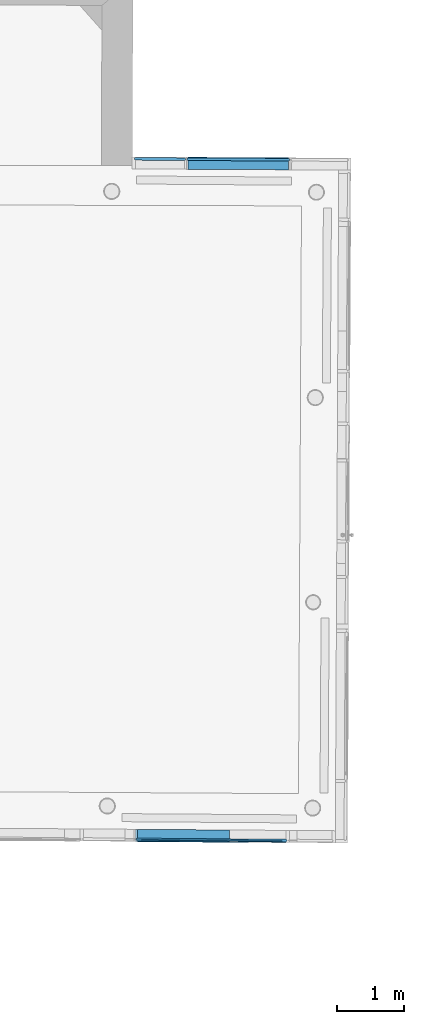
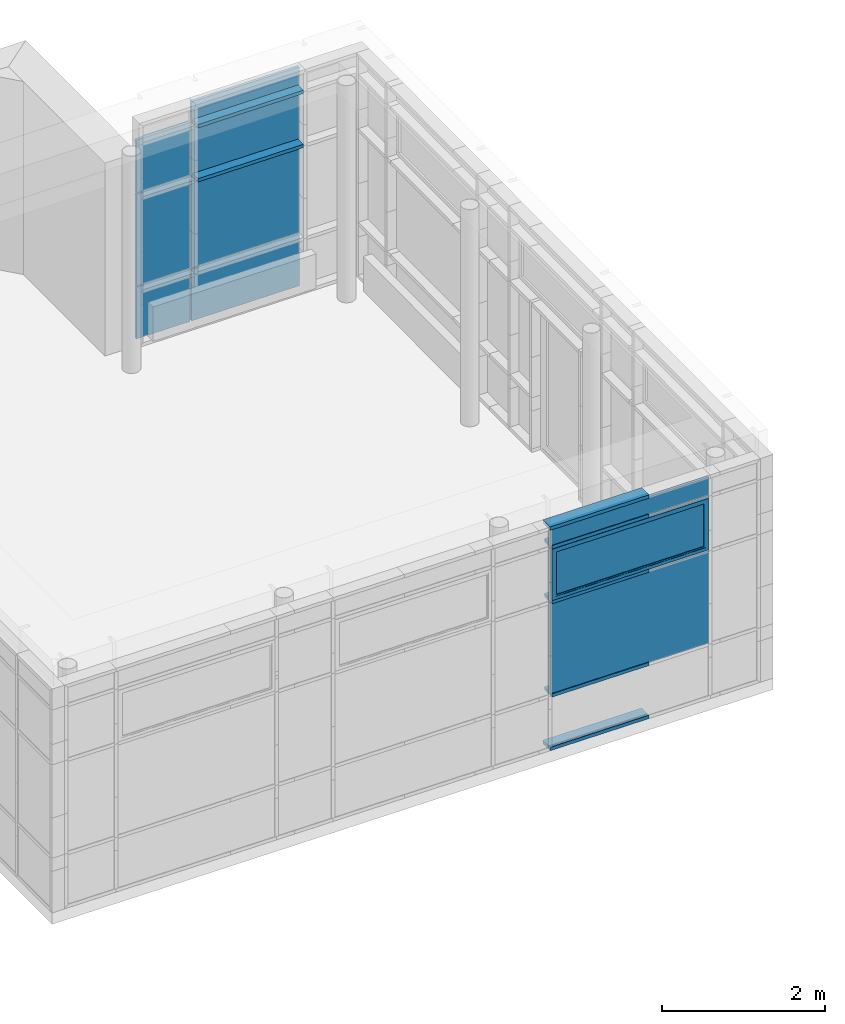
# One storey, part 142 of 196: 18 building element parts, 2 elements without a shape of their own.
"""IFC2X3 building model written with IfcOpenShell, lengths in metres."""

import ifcopenshell
import ifcopenshell.guid

model = None  # the IFC model being written
_history = None  # IfcOwnerHistory: only IFC2X3 demands one
_inside = {}  # id of a spatial element -> (the spatial element, [elements in it])
_under = {}  # id of a project, library or spatial element -> (it, [spatial elements below it])
_declared = {}  # id of a project -> (the project, [libraries it declares])
_typed = {}  # id of a type object -> (the type object, [elements of that type])
_made_of = {}  # id of a material, layer set ... -> (it, [elements and type objects made of it])


def new_model(schema):
    """Start an empty IFC model of exactly this schema.

    Asked for "IFC4X3", IfcOpenShell would pick the latest addendum, in which some entities
    have other attributes; the version numbers below select the first issue.
    IFC2X3 requires an IfcOwnerHistory on every rooted entity: one is made here for all.
    """
    global model, _history
    if schema == "IFC4X3":
        model = ifcopenshell.file(schema_version=(4, 3, 0, 0))
    else:
        model = ifcopenshell.file(schema=schema)
    _inside.clear()
    _under.clear()
    _declared.clear()
    _typed.clear()
    _made_of.clear()
    _history = None
    if model.schema == "IFC2X3":
        org = make("IfcOrganization", Name="unknown")
        user = make(
            "IfcPersonAndOrganization",
            ThePerson=make("IfcPerson", FamilyName="unknown"),
            TheOrganization=org,
        )
        app = make(
            "IfcApplication",
            ApplicationDeveloper=org,
            Version="unknown",
            ApplicationFullName="unknown",
            ApplicationIdentifier="unknown",
        )
        _history = make(
            "IfcOwnerHistory",
            OwningUser=user,
            OwningApplication=app,
            ChangeAction="ADDED",
            CreationDate=0,
        )
    return model


def make(cls, **values):
    """One entity of the class cls with the attributes given. An attribute that is None is left unset."""
    return model.create_entity(
        cls, **{name: value for name, value in values.items() if value is not None}
    )


def entity(cls, *values):
    """Any entity or typed value of the class cls, its attributes in the order of the schema. None: left unset."""
    e = model.create_entity(cls)
    for i, value in enumerate(values):
        if value is not None:
            e[i] = value
    return e


def rooted(cls, **values):
    """An entity with a GlobalId (a new one), such as an element, a storey or a relation."""
    return make(cls, GlobalId=ifcopenshell.guid.new(), OwnerHistory=_history, **values)


def si_unit(unit_type, name, prefix=None):
    """IfcSIUnit, for example si_unit("LENGTHUNIT", "METRE", prefix="MILLI")."""
    return make("IfcSIUnit", UnitType=unit_type, Prefix=prefix, Name=name)


def converted_unit(unit_type, name, factor, base, dimensions=None, offset=None):
    """IfcConversionBasedUnit, such as the inch: factor (a typed value) times the base unit."""
    return make(
        "IfcConversionBasedUnit"
        if offset is None
        else "IfcConversionBasedUnitWithOffset",
        ConversionOffset=offset,
        Dimensions=None
        if dimensions is None
        else entity("IfcDimensionalExponents", *dimensions),
        UnitType=unit_type,
        Name=name,
        ConversionFactor=make(
            "IfcMeasureWithUnit", ValueComponent=factor, UnitComponent=base
        ),
    )


def derived_unit(unit_type, elements):
    """IfcDerivedUnit: a product of units, each with its exponent."""
    return make(
        "IfcDerivedUnit",
        Elements=[
            make("IfcDerivedUnitElement", Unit=unit, Exponent=power)
            for unit, power in elements
        ],
        UnitType=unit_type,
    )


def money_unit(currency):
    """IfcMonetaryUnit."""
    return make("IfcMonetaryUnit", Currency=currency)


def assignment(units):
    """IfcUnitAssignment: the units of a project."""
    return None if units is None else make("IfcUnitAssignment", Units=units)


def point(xyz):
    """IfcCartesianPoint."""
    return None if xyz is None else make("IfcCartesianPoint", Coordinates=xyz)


def direction(xyz):
    """IfcDirection."""
    return None if xyz is None else make("IfcDirection", DirectionRatios=xyz)


def frame(location, z_axis=None, x_axis=None):
    """IfcAxis2Placement3D, a coordinate frame: its origin and axes. An axis left out is left unset."""
    return make(
        "IfcAxis2Placement3D",
        Location=point(location),
        Axis=direction(z_axis),
        RefDirection=direction(x_axis),
    )


def origin_with_axes():
    """The frame at (0, 0, 0) with the z axis (0, 0, 1) and the x axis (1, 0, 0) written out."""
    return frame((0.0, 0.0, 0.0), z_axis=(0.0, 0.0, 1.0), x_axis=(1.0, 0.0, 0.0))


def place(relative_to, where):
    """IfcLocalPlacement: puts the frame where relative to a parent placement (None: the world)."""
    return make(
        "IfcLocalPlacement", PlacementRelTo=relative_to, RelativePlacement=where
    )


def context(
    kind, dimensions, precision=None, world=None, true_north=None, identifier=None
):
    """IfcGeometricRepresentationContext, for example the 3D "Model" context."""
    return make(
        "IfcGeometricRepresentationContext",
        ContextIdentifier=identifier,
        ContextType=kind,
        CoordinateSpaceDimension=dimensions,
        Precision=precision,
        WorldCoordinateSystem=world,
        TrueNorth=true_north,
    )


def subcontext(parent, identifier, kind, view, scale=None):
    """IfcGeometricRepresentationSubContext, for example "Body" below "Model"."""
    return make(
        "IfcGeometricRepresentationSubContext",
        ContextIdentifier=identifier,
        ContextType=kind,
        ParentContext=parent,
        TargetScale=scale,
        TargetView=view,
    )


def project(units=None, contexts=None):
    """IfcProject with its units and contexts."""
    return rooted(
        "IfcProject",
        Name="project",
        RepresentationContexts=contexts,
        UnitsInContext=assignment(units),
    )


def spatial(cls, under=None, at=None, **own):
    """A site, building, storey or space (cls), placed at a placement, below another one or the project."""
    s = rooted(cls, ObjectPlacement=at, **own)
    if under is not None:
        _under.setdefault(under.id(), (under, []))[1].append(s)
    return s


def faces_of(points, faces, orient=None, outer=None):
    """IfcFace entities. A face is a list of loops; a loop is a list of indices into points, from 0.

    orient and outer hold one flag for each loop. By default every Orientation is true, the
    first loop of a face is its IfcFaceOuterBound and the others are IfcFaceBound.
    """
    made = []
    for i, loops in enumerate(faces):
        bounds = []
        for j, loop in enumerate(loops):
            is_outer = j == 0 if outer is None else outer[i][j]
            bounds.append(
                make(
                    "IfcFaceOuterBound" if is_outer else "IfcFaceBound",
                    Bound=make("IfcPolyLoop", Polygon=[points[k] for k in loop]),
                    Orientation=True if orient is None else orient[i][j],
                )
            )
        made.append(make("IfcFace", Bounds=bounds))
    return made


def faceted_brep(points, faces, orient=None, outer=None, voids=None):
    """IfcFacetedBrep: a solid bounded by flat faces; with voids (closed shells), ...WithVoids."""
    shared = [point(p) for p in points]
    hull = make("IfcClosedShell", CfsFaces=faces_of(shared, faces, orient, outer))
    if voids is None:
        return make("IfcFacetedBrep", Outer=hull)
    return make(
        "IfcFacetedBrepWithVoids",
        Outer=hull,
        Voids=[
            make(cls, CfsFaces=faces_of(shared, fs, o, b)) for cls, fs, o, b in voids
        ],
    )


def shape(context_of_items, identifier, shape_type, items):
    """IfcShapeRepresentation: the items that make up one representation, for example the "Body"."""
    return make(
        "IfcShapeRepresentation",
        ContextOfItems=context_of_items,
        RepresentationIdentifier=identifier,
        RepresentationType=shape_type,
        Items=items,
    )


def material(Name=None, Category=None):
    """IfcMaterial."""
    return make("IfcMaterial", Name=Name, Category=Category)


def made_of(thing, what):
    """Note that an element or type object is made of a material, layer set ...; save() writes the relation."""
    if what is not None:
        _made_of.setdefault(what.id(), (what, []))[1].append(thing)
    return thing


def type_object(cls, material=None, **own):
    """A type object (cls), such as IfcWallType, which elements share."""
    return made_of(rooted(cls, **own), material)


def element(
    cls,
    number,
    at=None,
    inside=None,
    cuts=None,
    type_object=None,
    material=None,
    context=None,
    identifier="Body",
    shape_type=None,
    held_by="IfcProductDefinitionShape",
    body=None,
    shapes=None,
    **own,
):
    """One element of the class cls, such as IfcWall. Its Tag is "e" and its number.

    at: its placement. inside: the storey or other place that contains it. cuts: it is an
    opening in that element (IfcRelVoidsElement). A single representation is given by context,
    identifier, shape_type and body (its items); several are given by shapes. held_by: the class
    of the entity that holds the representations. save() writes the other relations.
    """
    e = rooted(cls, Tag="e%d" % number, ObjectPlacement=at, **own)
    if body is not None:
        shapes = [shape(context, identifier, shape_type, body)]
    if shapes is not None:
        e.Representation = make(held_by, Representations=shapes)
    if inside is not None:
        _inside.setdefault(inside.id(), (inside, []))[1].append(e)
    if cuts is not None:
        rooted(
            "IfcRelVoidsElement", RelatingBuildingElement=cuts, RelatedOpeningElement=e
        )
    if type_object is not None:
        _typed.setdefault(type_object.id(), (type_object, []))[1].append(e)
    return made_of(e, material)


def aggregate(whole, parts):
    """IfcRelAggregates: a whole, such as a stair, and the parts it consists of."""
    return rooted("IfcRelAggregates", RelatingObject=whole, RelatedObjects=parts)


def save(model, path):
    """Write the relations noted so far, then the file.

    IfcRelAggregates (storeys below a building ...), IfcRelContainedInSpatialStructure (elements
    in a storey), IfcRelDefinesByType, IfcRelAssociatesMaterial and IfcRelDeclares: one each for
    every whole, place, type object, material and project.
    """
    for whole, parts in _under.values():
        aggregate(whole, parts)
    for where, things in _inside.values():
        rooted(
            "IfcRelContainedInSpatialStructure",
            RelatedElements=things,
            RelatingStructure=where,
        )
    for kind, things in _typed.values():
        rooted("IfcRelDefinesByType", RelatedObjects=things, RelatingType=kind)
    for what, things in _made_of.values():
        rooted("IfcRelAssociatesMaterial", RelatedObjects=things, RelatingMaterial=what)
    for by, libraries in _declared.values():
        rooted("IfcRelDeclares", RelatingContext=by, RelatedDefinitions=libraries)
    model.write(path)


model = new_model("IFC2X3")

# Units and contexts
model_context = context("Model", 3, precision=1e-05, world=origin_with_axes(), true_north=direction((0.0, 1.0)))
body_context = subcontext(model_context, "Body", "Model", "MODEL_VIEW")
ifc_project = project(units=[si_unit("LENGTHUNIT", "METRE"), si_unit("AREAUNIT", "SQUARE_METRE"), si_unit("VOLUMEUNIT", "CUBIC_METRE"), converted_unit("PLANEANGLEUNIT", "DEGREE", entity("IfcPlaneAngleMeasure", 0.0174532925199), si_unit("PLANEANGLEUNIT", "RADIAN"), dimensions=[0, 0, 0, 0, 0, 0, 0]), money_unit("EUR"), converted_unit("TIMEUNIT", "Year", entity("IfcTimeMeasure", 31556926.0), si_unit("TIMEUNIT", "SECOND"), dimensions=[0, 0, 1, 0, 0, 0, 0]), si_unit("MASSUNIT", "GRAM", prefix="KILO"), si_unit("THERMODYNAMICTEMPERATUREUNIT", "DEGREE_CELSIUS"), si_unit("LUMINOUSINTENSITYUNIT", "LUMEN"), si_unit("ENERGYUNIT", "JOULE", prefix="MEGA"), derived_unit("THERMALCONDUCTANCEUNIT", [(si_unit("POWERUNIT", "WATT"), 1), (si_unit("LENGTHUNIT", "METRE"), -1), (si_unit("THERMODYNAMICTEMPERATUREUNIT", "KELVIN"), -1)]), derived_unit("SPECIFICHEATCAPACITYUNIT", [(si_unit("ENERGYUNIT", "JOULE"), 1), (si_unit("MASSUNIT", "GRAM", prefix="KILO"), -1), (si_unit("THERMODYNAMICTEMPERATUREUNIT", "KELVIN"), -1)]), derived_unit("MASSDENSITYUNIT", [(si_unit("MASSUNIT", "GRAM", prefix="KILO"), 1), (si_unit("VOLUMEUNIT", "CUBIC_METRE"), -1)])], contexts=[model_context])

# Site, building, storey
site_placement = place(None, origin_with_axes())
site = spatial("IfcSite", under=ifc_project, at=site_placement, Name="Gelände", CompositionType="ELEMENT")
building_placement = place(site_placement, origin_with_axes())
building = spatial("IfcBuilding", under=site, at=building_placement, Name="Gebäude", CompositionType="ELEMENT")
storey_placement = place(building_placement, frame((0.0, 0.0, -3.0), z_axis=(0.0, 0.0, 1.0), x_axis=(1.0, 0.0, 0.0)))
storey = spatial("IfcBuildingStorey", under=building, at=storey_placement, Name="KELLERGESCHOSS", CompositionType="ELEMENT", Elevation=-3.0)

# Proxy, building element parts
building_element_proxy_type = type_object("IfcBuildingElementProxyType", Name="Fassadentyp", PredefinedType="NOTDEFINED")
proxy_1_placement = place(storey_placement, frame((2.54090824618, 35.7894672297, 0.610000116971), z_axis=(0.0, 0.0, 1.0), x_axis=(1.0, 0.0, 0.0)))
proxy_1 = element("IfcBuildingElementProxy", 1, at=proxy_1_placement, inside=storey, type_object=building_element_proxy_type, Name="Fassade-002")
ifc_material_1 = material(Name="53_Metall, Aluminium")
building_element_part_1_placement = place(proxy_1_placement, origin_with_axes())
building_element_part_1 = element("IfcBuildingElementPart", 2, at=building_element_part_1_placement, material=ifc_material_1, Name="53_Metall, Aluminium", context=body_context, shape_type="Brep", body=[
    faceted_brep([(3.51924131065, -0.0555016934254, 2.24148767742), (5.7296679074, -0.0715187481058, 2.24148767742), (5.72963167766, -0.0765186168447, 2.24148767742), (3.51920508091, -0.0605015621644, 2.24148767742), (3.5642401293, -0.0558277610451, 2.28648767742), (5.68466908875, -0.0711926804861, 2.28648767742), (5.68463285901, -0.076192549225, 2.28648767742), (3.56420389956, -0.060827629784, 2.28648767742)], [[[0, 1, 2, 3]], [[0, 4, 5, 1]], [[1, 5, 6, 2]], [[3, 2, 6, 7]], [[4, 0, 3, 7]], [[5, 4, 7, 6]]]),
    faceted_brep([(5.7296679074, -0.0715187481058, 2.24148767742), (5.7296679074, -0.0715187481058, 3.01149577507), (5.72963167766, -0.0765186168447, 3.01149577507), (5.72963167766, -0.0765186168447, 2.24148767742), (5.68466908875, -0.0711926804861, 2.28648767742), (5.68466908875, -0.0711926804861, 2.96649577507), (5.68463285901, -0.076192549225, 2.96649577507), (5.68463285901, -0.076192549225, 2.28648767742)], [[[0, 1, 2, 3]], [[0, 4, 5, 1]], [[1, 5, 6, 2]], [[3, 2, 6, 7]], [[4, 0, 3, 7]], [[5, 4, 7, 6]]]),
    faceted_brep([(3.51924131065, -0.0555016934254, 3.01149577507), (3.5642401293, -0.0558277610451, 2.96649577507), (3.56420389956, -0.060827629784, 2.96649577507), (3.51920508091, -0.0605015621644, 3.01149577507), (5.7296679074, -0.0715187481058, 3.01149577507), (5.68466908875, -0.0711926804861, 2.96649577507), (5.68463285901, -0.076192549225, 2.96649577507), (5.72963167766, -0.0765186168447, 3.01149577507)], [[[0, 1, 2, 3]], [[0, 4, 5, 1]], [[1, 5, 6, 2]], [[3, 2, 6, 7]], [[4, 0, 3, 7]], [[5, 4, 7, 6]]]),
    faceted_brep([(3.51924131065, -0.0555016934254, 2.24148767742), (3.5642401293, -0.0558277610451, 2.28648767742), (3.56420389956, -0.060827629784, 2.28648767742), (3.51920508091, -0.0605015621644, 2.24148767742), (3.51924131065, -0.0555016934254, 3.01149577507), (3.5642401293, -0.0558277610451, 2.96649577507), (3.56420389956, -0.060827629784, 2.96649577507), (3.51920508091, -0.0605015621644, 3.01149577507)], [[[0, 1, 2, 3]], [[0, 4, 5, 1]], [[1, 5, 6, 2]], [[3, 2, 6, 7]], [[4, 0, 3, 7]], [[5, 4, 7, 6]]]),
    faceted_brep([(3.519603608, -0.00550300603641, 2.24148767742), (5.73003020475, -0.0215200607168, 2.24148767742), (5.7296679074, -0.0715187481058, 2.24148767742), (3.51924131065, -0.0555016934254, 2.24148767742), (3.53960308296, -0.00564792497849, 2.26148767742), (5.7100307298, -0.0213751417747, 2.26148767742), (5.70966843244, -0.0713738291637, 2.26148767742), (3.5392407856, -0.0556466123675, 2.26148767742)], [[[0, 1, 2, 3]], [[0, 4, 5, 1]], [[1, 5, 6, 2]], [[3, 2, 6, 7]], [[4, 0, 3, 7]], [[5, 4, 7, 6]]]),
    faceted_brep([(5.73003020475, -0.0215200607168, 2.24148767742), (5.73003020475, -0.0215200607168, 3.01149577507), (5.7296679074, -0.0715187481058, 3.01149577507), (5.7296679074, -0.0715187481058, 2.24148767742), (5.7100307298, -0.0213751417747, 2.26148767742), (5.7100307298, -0.0213751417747, 2.99149577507), (5.70966843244, -0.0713738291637, 2.99149577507), (5.70966843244, -0.0713738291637, 2.26148767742)], [[[0, 1, 2, 3]], [[0, 4, 5, 1]], [[1, 5, 6, 2]], [[3, 2, 6, 7]], [[4, 0, 3, 7]], [[5, 4, 7, 6]]]),
    faceted_brep([(3.519603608, -0.00550300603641, 3.01149577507), (3.53960308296, -0.00564792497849, 2.99149577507), (3.5392407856, -0.0556466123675, 2.99149577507), (3.51924131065, -0.0555016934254, 3.01149577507), (5.73003020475, -0.0215200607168, 3.01149577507), (5.7100307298, -0.0213751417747, 2.99149577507), (5.70966843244, -0.0713738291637, 2.99149577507), (5.7296679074, -0.0715187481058, 3.01149577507)], [[[0, 1, 2, 3]], [[0, 4, 5, 1]], [[1, 5, 6, 2]], [[3, 2, 6, 7]], [[4, 0, 3, 7]], [[5, 4, 7, 6]]]),
    faceted_brep([(3.519603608, -0.00550300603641, 2.24148767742), (3.53960308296, -0.00564792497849, 2.26148767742), (3.5392407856, -0.0556466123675, 2.26148767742), (3.51924131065, -0.0555016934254, 2.24148767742), (3.519603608, -0.00550300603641, 3.01149577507), (3.53960308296, -0.00564792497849, 2.99149577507), (3.5392407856, -0.0556466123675, 2.99149577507), (3.51924131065, -0.0555016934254, 3.01149577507)], [[[0, 1, 2, 3]], [[0, 4, 5, 1]], [[1, 5, 6, 2]], [[3, 2, 6, 7]], [[4, 0, 3, 7]], [[5, 4, 7, 6]]]),
    faceted_brep([(3.50460399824, -0.00539431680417, 2.22648767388), (5.74502981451, -0.021628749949, 2.22648767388), (5.74473997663, -0.0616276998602, 2.22648767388), (3.50431416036, -0.0453932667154, 2.22648767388), (3.519603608, -0.00550300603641, 2.24148767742), (5.73003020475, -0.0215200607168, 2.24148767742), (5.72974036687, -0.061519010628, 2.24148767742), (3.51931377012, -0.0455019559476, 2.24148767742)], [[[0, 1, 2, 3]], [[0, 4, 5, 1]], [[1, 5, 6, 2]], [[3, 2, 6, 7]], [[4, 0, 3, 7]], [[5, 4, 7, 6]]]),
    faceted_brep([(5.74502981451, -0.021628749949, 2.22648767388), (5.74502981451, -0.021628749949, 3.02649577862), (5.74473997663, -0.0616276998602, 3.02649577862), (5.74473997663, -0.0616276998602, 2.22648767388), (5.73003020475, -0.0215200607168, 2.24148767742), (5.73003020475, -0.0215200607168, 3.01149577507), (5.72974036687, -0.061519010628, 3.01149577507), (5.72974036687, -0.061519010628, 2.24148767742)], [[[0, 1, 2, 3]], [[0, 4, 5, 1]], [[1, 5, 6, 2]], [[3, 2, 6, 7]], [[4, 0, 3, 7]], [[5, 4, 7, 6]]]),
    faceted_brep([(5.74502981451, -0.021628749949, 3.02649577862), (3.50460399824, -0.00539431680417, 3.02649577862), (3.50431416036, -0.0453932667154, 3.02649577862), (5.74473997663, -0.0616276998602, 3.02649577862), (5.73003020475, -0.0215200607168, 3.01149577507), (3.519603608, -0.00550300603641, 3.01149577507), (3.51931377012, -0.0455019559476, 3.01149577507), (5.72974036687, -0.061519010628, 3.01149577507)], [[[0, 1, 2, 3]], [[0, 4, 5, 1]], [[1, 5, 6, 2]], [[3, 2, 6, 7]], [[4, 0, 3, 7]], [[5, 4, 7, 6]]]),
    faceted_brep([(3.50460399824, -0.00539431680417, 3.02649577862), (3.50460399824, -0.00539431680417, 2.22648767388), (3.50431416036, -0.0453932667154, 2.22648767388), (3.50431416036, -0.0453932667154, 3.02649577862), (3.519603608, -0.00550300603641, 3.01149577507), (3.519603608, -0.00550300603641, 2.24148767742), (3.51931377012, -0.0455019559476, 2.24148767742), (3.51931377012, -0.0455019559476, 3.01149577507)], [[[0, 1, 2, 3]], [[0, 4, 5, 1]], [[1, 5, 6, 2]], [[3, 2, 6, 7]], [[4, 0, 3, 7]], [[5, 4, 7, 6]]]),
    faceted_brep([(3.58423960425, -0.0559726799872, 2.30648767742), (3.58463813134, -0.000974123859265, 2.30648767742), (3.58463813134, -0.000974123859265, 2.94649577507), (3.58423960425, -0.0559726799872, 2.94649577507), (3.5392407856, -0.0556466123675, 2.26148767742), (3.53963931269, -0.000648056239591, 2.26148767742), (3.53963931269, -0.000648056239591, 2.99149577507), (3.5392407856, -0.0556466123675, 2.99149577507)], [[[0, 1, 2, 3]], [[4, 5, 1, 0]], [[1, 5, 6, 2]], [[3, 2, 6, 7]], [[0, 3, 7, 4]], [[7, 6, 5, 4]]]),
    faceted_brep([(5.70966843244, -0.0713738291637, 2.26148767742), (5.71006695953, -0.0163752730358, 2.26148767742), (5.71006695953, -0.0163752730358, 2.99149577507), (5.70966843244, -0.0713738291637, 2.99149577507), (5.66466961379, -0.071047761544, 2.30648767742), (5.66506814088, -0.0160492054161, 2.30648767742), (5.66506814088, -0.0160492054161, 2.94649577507), (5.66466961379, -0.071047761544, 2.94649577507)], [[[0, 1, 2, 3]], [[4, 5, 1, 0]], [[1, 5, 6, 2]], [[3, 2, 6, 7]], [[0, 3, 7, 4]], [[7, 6, 5, 4]]]),
    faceted_brep([(5.70966843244, -0.0713738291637, 2.26148767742), (5.71006695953, -0.0163752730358, 2.26148767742), (5.66506814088, -0.0160492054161, 2.30648767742), (5.66466961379, -0.071047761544, 2.30648767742), (3.5392407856, -0.0556466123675, 2.26148767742), (3.53963931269, -0.000648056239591, 2.26148767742), (3.58463813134, -0.000974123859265, 2.30648767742), (3.58423960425, -0.0559726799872, 2.30648767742)], [[[0, 1, 2, 3]], [[4, 5, 1, 0]], [[1, 5, 6, 2]], [[3, 2, 6, 7]], [[0, 3, 7, 4]], [[7, 6, 5, 4]]]),
    faceted_brep([(3.5392407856, -0.0556466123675, 2.99149577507), (3.53963931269, -0.000648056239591, 2.99149577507), (3.58463813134, -0.000974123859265, 2.94649577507), (3.58423960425, -0.0559726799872, 2.94649577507), (5.70966843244, -0.0713738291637, 2.99149577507), (5.71006695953, -0.0163752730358, 2.99149577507), (5.66506814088, -0.0160492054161, 2.94649577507), (5.66466961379, -0.071047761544, 2.94649577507)], [[[0, 1, 2, 3]], [[4, 5, 1, 0]], [[1, 5, 6, 2]], [[3, 2, 6, 7]], [[0, 3, 7, 4]], [[7, 6, 5, 4]]]),
])
ifc_material_2 = material(Name="45_Glas, Normalglas")
building_element_part_2_placement = place(proxy_1_placement, origin_with_axes())
building_element_part_2 = element("IfcBuildingElementPart", 3, at=building_element_part_2_placement, material=ifc_material_2, Name="45_Glas, Normalglas", context=body_context, shape_type="Brep", body=[
    faceted_brep([(3.58431206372, -0.0459729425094, 2.30648767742), (3.58442799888, -0.0299733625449, 2.30648767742), (5.66485800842, -0.0450484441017, 2.30648767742), (5.66474207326, -0.0610480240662, 2.30648767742), (3.58431206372, -0.0459729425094, 2.94649577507), (3.58442799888, -0.0299733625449, 2.94649577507), (5.66485800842, -0.0450484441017, 2.94649577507), (5.66474207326, -0.0610480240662, 2.94649577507)], [[[0, 1, 2, 3]], [[4, 5, 1, 0]], [[1, 5, 6, 2]], [[3, 2, 6, 7]], [[0, 3, 7, 4]], [[7, 6, 5, 4]]]),
])
building_element_part_3_placement = place(proxy_1_placement, origin_with_axes())
building_element_part_3 = element("IfcBuildingElementPart", 4, at=building_element_part_3_placement, material=ifc_material_2, Name="45_Glas, Normalglas", context=body_context, shape_type="Brep", body=[
    faceted_brep([(5.7450298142, -0.0216287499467, 2.20648767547), (4.88929718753, -0.0154279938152, 2.20648767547), (4.88900734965, -0.0554269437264, 2.20648767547), (5.74473997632, -0.061627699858, 2.20648767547), (5.7450298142, -0.0216287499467, 1.41999987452), (5.7450298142, -0.0216287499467, 0.828463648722), (4.88929718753, -0.0154279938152, 0.828463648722), (3.50460399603, -0.00539431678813, 0.828463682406), (3.50460399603, -0.00539431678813, 1.41999987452), (3.50460399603, -0.00539431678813, 2.20648767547), (3.50431415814, -0.0453932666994, 2.20648767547), (3.50431415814, -0.0453932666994, 1.41999987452), (3.50431415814, -0.0453932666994, 0.828463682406), (4.88900734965, -0.0554269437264, 0.828463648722), (5.74473997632, -0.061627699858, 0.828463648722), (5.74473997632, -0.061627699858, 1.41999987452)], [[[0, 1, 2, 3]], [[0, 4, 5, 6, 7, 8, 9, 1]], [[1, 9, 10, 2]], [[3, 2, 10, 11, 12, 13, 14, 15]], [[4, 0, 3, 15]], [[5, 4, 15, 14]], [[6, 5, 14, 13]], [[7, 6, 13, 12]], [[8, 7, 12, 11]], [[9, 8, 11, 10]]]),
])
building_element_part_4_placement = place(proxy_1_placement, origin_with_axes())
building_element_part_4 = element("IfcBuildingElementPart", 5, at=building_element_part_4_placement, material=ifc_material_2, Name="45_Glas, Normalglas", context=body_context, shape_type="Brep", body=[
    faceted_brep([(5.74502981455, -0.0216287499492, 3.31499992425), (4.88929719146, -0.0154279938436, 3.31499992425), (4.88900735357, -0.0554269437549, 3.31499992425), (5.74473997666, -0.0616276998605, 3.31499992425), (5.74502981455, -0.0216287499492, 3.04649576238), (4.88929719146, -0.0154279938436, 3.04649576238), (3.50460400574, -0.00539431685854, 3.04649576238), (3.50460400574, -0.00539431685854, 3.31499992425), (3.50431416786, -0.0453932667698, 3.31499992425), (3.50431416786, -0.0453932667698, 3.04649576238), (4.88900735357, -0.0554269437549, 3.04649576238), (5.74473997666, -0.0616276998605, 3.04649576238)], [[[0, 1, 2, 3]], [[0, 4, 5, 6, 7, 1]], [[1, 7, 8, 2]], [[3, 2, 8, 9, 10, 11]], [[4, 0, 3, 11]], [[5, 4, 11, 10]], [[6, 5, 10, 9]], [[7, 6, 9, 8]]]),
])
building_element_part_5_placement = place(proxy_1_placement, origin_with_axes())
building_element_part_5 = element("IfcBuildingElementPart", 6, at=building_element_part_5_placement, material=ifc_material_1, Name="53_Metall, Aluminium", context=body_context, shape_type="Brep", body=[
    faceted_brep([(4.88922474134, -0.0254277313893, 3.02649576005), (4.88922474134, -0.0254277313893, 3.01149576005), (4.89023917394, 0.1145685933, 3.01149576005), (4.89023917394, 0.1145685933, 3.06149576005), (4.88922474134, -0.0254277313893, 3.06149576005), (4.88922474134, -0.0254277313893, 3.04649576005), (4.8890798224, -0.0454272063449, 3.04649576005), (4.8890798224, -0.0454272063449, 3.06149576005), (4.88893490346, -0.0654266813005, 3.06149576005), (4.88893490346, -0.0654266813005, 3.01149576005), (4.8890798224, -0.0454272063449, 3.01149576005), (4.8890798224, -0.0454272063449, 3.02649576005), (3.51953115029, -0.015502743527, 3.02649576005), (3.51953115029, -0.015502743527, 3.01149576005), (3.52054558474, 0.124493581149, 3.01149576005), (3.52054558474, 0.124493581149, 3.06149576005), (3.51953115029, -0.015502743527, 3.06149576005), (3.51953115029, -0.015502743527, 3.04649576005), (3.51938623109, -0.0355022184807, 3.04649576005), (3.51938623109, -0.0355022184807, 3.06149576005), (3.51924131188, -0.0555016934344, 3.06149576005), (3.51924131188, -0.0555016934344, 3.01149576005), (3.51938623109, -0.0355022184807, 3.01149576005), (3.51938623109, -0.0355022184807, 3.02649576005)], [[[0, 1, 2, 3, 4, 5, 6, 7, 8, 9, 10, 11]], [[1, 0, 12, 13]], [[1, 13, 14, 2]], [[2, 14, 15, 3]], [[4, 3, 15, 16]], [[4, 16, 17, 5]], [[5, 17, 18, 6]], [[7, 6, 18, 19]], [[19, 20, 8, 7]], [[8, 20, 21, 9]], [[22, 10, 9, 21]], [[11, 10, 22, 23]], [[0, 11, 23, 12]], [[23, 22, 21, 20, 19, 18, 17, 16, 15, 14, 13, 12]]]),
])
building_element_part_6_placement = place(proxy_1_placement, origin_with_axes())
building_element_part_6 = element("IfcBuildingElementPart", 7, at=building_element_part_6_placement, material=ifc_material_1, Name="53_Metall, Aluminium", context=body_context, shape_type="Brep", body=[
    faceted_brep([(4.88922473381, -0.0254277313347, 2.20648768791), (4.88922473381, -0.0254277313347, 2.19148768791), (4.8902391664, 0.114568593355, 2.19148768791), (4.8902391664, 0.114568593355, 2.24148768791), (4.88922473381, -0.0254277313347, 2.24148768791), (4.88922473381, -0.0254277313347, 2.22648768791), (4.88907981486, -0.0454272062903, 2.22648768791), (4.88907981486, -0.0454272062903, 2.24148768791), (4.88893489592, -0.0654266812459, 2.24148768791), (4.88893489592, -0.0654266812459, 2.19148768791), (4.88907981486, -0.0454272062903, 2.19148768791), (4.88907981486, -0.0454272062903, 2.20648768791), (3.51953114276, -0.0155027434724, 2.20648768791), (3.51953114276, -0.0155027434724, 2.19148768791), (3.5205455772, 0.124493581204, 2.19148768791), (3.5205455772, 0.124493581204, 2.24148768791), (3.51953114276, -0.0155027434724, 2.24148768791), (3.51953114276, -0.0155027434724, 2.22648768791), (3.51938622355, -0.0355022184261, 2.22648768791), (3.51938622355, -0.0355022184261, 2.24148768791), (3.51924130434, -0.0555016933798, 2.24148768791), (3.51924130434, -0.0555016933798, 2.19148768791), (3.51938622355, -0.0355022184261, 2.19148768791), (3.51938622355, -0.0355022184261, 2.20648768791)], [[[0, 1, 2, 3, 4, 5, 6, 7, 8, 9, 10, 11]], [[1, 0, 12, 13]], [[1, 13, 14, 2]], [[2, 14, 15, 3]], [[4, 3, 15, 16]], [[4, 16, 17, 5]], [[5, 17, 18, 6]], [[7, 6, 18, 19]], [[19, 20, 8, 7]], [[8, 20, 21, 9]], [[22, 10, 9, 21]], [[11, 10, 22, 23]], [[0, 11, 23, 12]], [[23, 22, 21, 20, 19, 18, 17, 16, 15, 14, 13, 12]]]),
])
building_element_part_7_placement = place(proxy_1_placement, origin_with_axes())
building_element_part_7 = element("IfcBuildingElementPart", 8, at=building_element_part_7_placement, material=ifc_material_1, Name="53_Metall, Aluminium", context=body_context, shape_type="Brep", body=[
    faceted_brep([(4.88922474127, -0.0254277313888, 0.0349999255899), (4.88907982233, -0.0454272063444, 0.0349999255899), (4.88907982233, -0.0454272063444, 0.0499999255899), (4.88893490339, -0.0654266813, 0.0499999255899), (4.88893490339, -0.0654266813, -7.44101367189e-08), (4.89023917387, 0.114568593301, -7.44101367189e-08), (4.89023917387, 0.114568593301, 0.0499999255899), (4.88922474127, -0.0254277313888, 0.0499999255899), (3.49453179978, -0.0153215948, 0.0349999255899), (3.49438688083, -0.0353210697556, 0.0349999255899), (3.49438688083, -0.0353210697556, 0.0499999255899), (3.49424196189, -0.0553205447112, 0.0499999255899), (3.49424196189, -0.0553205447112, -7.44101367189e-08), (3.49554623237, 0.124674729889, -7.44101367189e-08), (3.49554623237, 0.124674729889, 0.0499999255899), (3.49453179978, -0.0153215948, 0.0499999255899)], [[[0, 1, 2, 3, 4, 5, 6, 7]], [[1, 0, 8, 9]], [[10, 2, 1, 9]], [[2, 10, 11, 3]], [[12, 4, 3, 11]], [[13, 5, 4, 12]], [[14, 6, 5, 13]], [[15, 7, 6, 14]], [[0, 7, 15, 8]], [[8, 15, 14, 13, 12, 11, 10, 9]]]),
])
building_element_part_8_placement = place(proxy_1_placement, origin_with_axes())
building_element_part_8 = element("IfcBuildingElementPart", 9, at=building_element_part_8_placement, material=ifc_material_1, Name="53_Metall, Aluminium", context=body_context, shape_type="Brep", body=[
    faceted_brep([(4.88922473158, -0.0254277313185, 0.808463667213), (4.88922473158, -0.0254277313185, 0.793463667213), (4.89023916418, 0.114568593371, 0.793463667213), (4.89023916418, 0.114568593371, 0.843463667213), (4.88922473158, -0.0254277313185, 0.843463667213), (4.88922473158, -0.0254277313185, 0.828463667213), (4.88907981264, -0.0454272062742, 0.828463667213), (4.88907981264, -0.0454272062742, 0.843463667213), (4.8889348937, -0.0654266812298, 0.843463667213), (4.8889348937, -0.0654266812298, 0.793463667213), (4.88907981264, -0.0454272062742, 0.793463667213), (4.88907981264, -0.0454272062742, 0.808463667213), (3.51953114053, -0.0155027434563, 0.808463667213), (3.51953114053, -0.0155027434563, 0.793463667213), (3.52054557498, 0.12449358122, 0.793463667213), (3.52054557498, 0.12449358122, 0.843463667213), (3.51953114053, -0.0155027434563, 0.843463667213), (3.51953114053, -0.0155027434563, 0.828463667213), (3.51938622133, -0.03550221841, 0.828463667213), (3.51938622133, -0.03550221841, 0.843463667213), (3.51924130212, -0.0555016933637, 0.843463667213), (3.51924130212, -0.0555016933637, 0.793463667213), (3.51938622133, -0.03550221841, 0.793463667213), (3.51938622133, -0.03550221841, 0.808463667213)], [[[0, 1, 2, 3, 4, 5, 6, 7, 8, 9, 10, 11]], [[1, 0, 12, 13]], [[1, 13, 14, 2]], [[2, 14, 15, 3]], [[4, 3, 15, 16]], [[4, 16, 17, 5]], [[5, 17, 18, 6]], [[7, 6, 18, 19]], [[19, 20, 8, 7]], [[8, 20, 21, 9]], [[22, 10, 9, 21]], [[11, 10, 22, 23]], [[0, 11, 23, 12]], [[23, 22, 21, 20, 19, 18, 17, 16, 15, 14, 13, 12]]]),
])
building_element_part_9_placement = place(proxy_1_placement, origin_with_axes())
building_element_part_9 = element("IfcBuildingElementPart", 10, at=building_element_part_9_placement, material=ifc_material_1, Name="53_Metall, Aluminium", context=body_context, shape_type="Brep", body=[
    faceted_brep([(4.88922474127, -0.0254277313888, 3.31499994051), (4.88922474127, -0.0254277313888, 3.29999994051), (4.89023917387, 0.114568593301, 3.29999994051), (4.89023917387, 0.114568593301, 3.34999994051), (4.88893490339, -0.0654266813, 3.34999994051), (4.88893490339, -0.0654266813, 3.29999994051), (4.88907982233, -0.0454272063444, 3.29999994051), (4.88907982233, -0.0454272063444, 3.31499994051), (3.49453180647, -0.0153215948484, 3.31499994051), (3.49453180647, -0.0153215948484, 3.29999994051), (3.49554623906, 0.124674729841, 3.29999994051), (3.49554623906, 0.124674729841, 3.34999994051), (3.49424196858, -0.0553205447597, 3.34999994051), (3.49424196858, -0.0553205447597, 3.29999994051), (3.49438688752, -0.035321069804, 3.29999994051), (3.49438688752, -0.035321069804, 3.31499994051)], [[[0, 1, 2, 3, 4, 5, 6, 7]], [[0, 8, 9, 1]], [[9, 10, 2, 1]], [[10, 11, 3, 2]], [[11, 12, 4, 3]], [[12, 13, 5, 4]], [[6, 5, 13, 14]], [[14, 15, 7, 6]], [[7, 15, 8, 0]], [[8, 15, 14, 13, 12, 11, 10, 9]]]),
])
aggregate(proxy_1, [building_element_part_1, building_element_part_2, building_element_part_3, building_element_part_4, building_element_part_5, building_element_part_6, building_element_part_7, building_element_part_8, building_element_part_9])

proxy_2_placement = place(storey_placement, frame((8.78139895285, 45.8579301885, 0.610000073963), z_axis=(0.0, 0.0, 1.0), x_axis=(1.0, 0.0, 0.0)))
proxy_2 = element("IfcBuildingElementProxy", 11, at=proxy_2_placement, inside=storey, type_object=building_element_proxy_type, Name="Fassade-002")
building_element_part_10_placement = place(proxy_2_placement, origin_with_axes())
building_element_part_10 = element("IfcBuildingElementPart", 12, at=building_element_part_10_placement, material=ifc_material_2, Name="45_Glas, Normalglas", context=body_context, shape_type="Brep", body=[
    faceted_brep([(-1.982208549, -0.00883557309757, 2.20362977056), (-0.461501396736, -0.0174009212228, 2.20362977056), (-0.461276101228, 0.0225984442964, 2.20362977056), (-1.98198325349, 0.0311637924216, 2.20362977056), (-1.982208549, -0.00883557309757, 1.41999991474), (-1.982208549, -0.00883557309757, 0.828683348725), (-0.461501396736, -0.0174009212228, 0.828683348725), (-0.461501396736, -0.0174009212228, 1.41999991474), (-0.461276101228, 0.0225984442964, 1.41999991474), (-0.461276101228, 0.0225984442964, 0.828683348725), (-1.98198325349, 0.0311637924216, 0.828683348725), (-1.98198325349, 0.0311637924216, 1.41999991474)], [[[0, 1, 2, 3]], [[0, 4, 5, 6, 7, 1]], [[1, 7, 8, 2]], [[3, 2, 8, 9, 10, 11]], [[4, 0, 3, 11]], [[5, 4, 11, 10]], [[6, 5, 10, 9]], [[7, 6, 9, 8]]]),
])
building_element_part_11_placement = place(proxy_2_placement, origin_with_axes())
building_element_part_11 = element("IfcBuildingElementPart", 13, at=building_element_part_11_placement, material=ifc_material_2, Name="45_Glas, Normalglas", context=body_context, shape_type="Brep", body=[
    faceted_brep([(-2.76127415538, -0.00444750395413, 3.01359915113), (-2.00220824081, -0.00872292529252, 3.01359915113), (-2.00198294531, 0.0312764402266, 3.01359915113), (-2.76104885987, 0.035551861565, 3.01359915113), (-2.76127415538, -0.00444750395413, 2.51999993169), (-2.76127415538, -0.00444750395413, 2.22362976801), (-2.00220824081, -0.00872292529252, 2.22362976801), (-2.00220824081, -0.00872292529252, 2.51999993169), (-2.00198294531, 0.0312764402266, 2.51999993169), (-2.00198294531, 0.0312764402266, 2.22362976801), (-2.76104885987, 0.035551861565, 2.22362976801), (-2.76104885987, 0.035551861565, 2.51999993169)], [[[0, 1, 2, 3]], [[0, 4, 5, 6, 7, 1]], [[1, 7, 8, 2]], [[3, 2, 8, 9, 10, 11]], [[4, 0, 3, 11]], [[5, 4, 11, 10]], [[6, 5, 10, 9]], [[7, 6, 9, 8]]]),
])
building_element_part_12_placement = place(proxy_2_placement, origin_with_axes())
building_element_part_12 = element("IfcBuildingElementPart", 14, at=building_element_part_12_placement, material=ifc_material_2, Name="45_Glas, Normalglas", context=body_context, shape_type="Brep", body=[
    faceted_brep([(-1.982208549, -0.00883557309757, 3.31500001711), (-0.461501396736, -0.0174009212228, 3.31500001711), (-0.461276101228, 0.0225984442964, 3.31500001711), (-1.98198325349, 0.0311637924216, 3.31500001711), (-1.982208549, -0.00883557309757, 3.03359916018), (-0.461501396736, -0.0174009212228, 3.03359916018), (-0.461276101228, 0.0225984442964, 3.03359916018), (-1.98198325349, 0.0311637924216, 3.03359916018)], [[[0, 1, 2, 3]], [[0, 4, 5, 1]], [[1, 5, 6, 2]], [[3, 2, 6, 7]], [[4, 0, 3, 7]], [[5, 4, 7, 6]]]),
])
building_element_part_13_placement = place(proxy_2_placement, origin_with_axes())
building_element_part_13 = element("IfcBuildingElementPart", 15, at=building_element_part_13_placement, material=ifc_material_2, Name="45_Glas, Normalglas", context=body_context, shape_type="Brep", body=[
    faceted_brep([(-1.982208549, -0.00883557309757, 3.01359915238), (-0.461501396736, -0.0174009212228, 3.01359915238), (-0.461276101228, 0.0225984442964, 3.01359915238), (-1.98198325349, 0.0311637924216, 3.01359915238), (-1.982208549, -0.00883557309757, 2.51999991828), (-1.982208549, -0.00883557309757, 2.22362977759), (-0.461501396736, -0.0174009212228, 2.22362977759), (-0.461501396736, -0.0174009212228, 2.51999991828), (-0.461276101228, 0.0225984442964, 2.51999991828), (-0.461276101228, 0.0225984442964, 2.22362977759), (-1.98198325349, 0.0311637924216, 2.22362977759), (-1.98198325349, 0.0311637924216, 2.51999991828)], [[[0, 1, 2, 3]], [[0, 4, 5, 6, 7, 1]], [[1, 7, 8, 2]], [[3, 2, 8, 9, 10, 11]], [[4, 0, 3, 11]], [[5, 4, 11, 10]], [[6, 5, 10, 9]], [[7, 6, 9, 8]]]),
])
building_element_part_14_placement = place(proxy_2_placement, origin_with_axes())
building_element_part_14 = element("IfcBuildingElementPart", 16, at=building_element_part_14_placement, material=ifc_material_2, Name="45_Glas, Normalglas", context=body_context, shape_type="Brep", body=[
    faceted_brep([(-2.76127416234, -0.004447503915, 2.20362977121), (-2.00220823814, -0.00872292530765, 2.20362977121), (-2.00198294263, 0.0312764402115, 2.20362977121), (-2.76104886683, 0.0355518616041, 2.20362977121), (-2.76127416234, -0.004447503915, 1.41999993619), (-2.76127416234, -0.004447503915, 0.828683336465), (-2.00220823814, -0.00872292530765, 0.828683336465), (-2.00220823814, -0.00872292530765, 1.41999993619), (-2.00198294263, 0.0312764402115, 1.41999993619), (-2.00198294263, 0.0312764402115, 0.828683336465), (-2.76104886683, 0.0355518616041, 0.828683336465), (-2.76104886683, 0.0355518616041, 1.41999993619)], [[[0, 1, 2, 3]], [[0, 4, 5, 6, 7, 1]], [[1, 7, 8, 2]], [[3, 2, 8, 9, 10, 11]], [[4, 0, 3, 11]], [[5, 4, 11, 10]], [[6, 5, 10, 9]], [[7, 6, 9, 8]]]),
])
building_element_part_15_placement = place(proxy_2_placement, origin_with_axes())
building_element_part_15 = element("IfcBuildingElementPart", 17, at=building_element_part_15_placement, material=ifc_material_2, Name="45_Glas, Normalglas", context=body_context, shape_type="Brep", body=[
    faceted_brep([(-2.76127415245, -0.00444750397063, 0.808683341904), (-2.00220823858, -0.00872292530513, 0.808683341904), (-2.00198294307, 0.031276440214, 0.808683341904), (-2.76104885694, 0.0355518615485, 0.808683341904), (-2.76127415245, -0.00444750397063, 0.619999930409), (-2.76127415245, -0.00444750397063, 0.0350000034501), (-2.00220823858, -0.00872292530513, 0.0350000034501), (-2.00220823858, -0.00872292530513, 0.619999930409), (-2.00198294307, 0.031276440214, 0.619999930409), (-2.00198294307, 0.031276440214, 0.0350000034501), (-2.76104885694, 0.0355518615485, 0.0350000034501), (-2.76104885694, 0.0355518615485, 0.619999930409)], [[[0, 1, 2, 3]], [[0, 4, 5, 6, 7, 1]], [[1, 7, 8, 2]], [[3, 2, 8, 9, 10, 11]], [[4, 0, 3, 11]], [[5, 4, 11, 10]], [[6, 5, 10, 9]], [[7, 6, 9, 8]]]),
])
building_element_part_16_placement = place(proxy_2_placement, origin_with_axes())
building_element_part_16 = element("IfcBuildingElementPart", 18, at=building_element_part_16_placement, material=ifc_material_2, Name="45_Glas, Normalglas", context=body_context, shape_type="Brep", body=[
    faceted_brep([(-1.982208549, -0.00883557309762, 0.808683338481), (-0.461501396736, -0.0174009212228, 0.808683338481), (-0.461276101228, 0.0225984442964, 0.808683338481), (-1.98198325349, 0.0311637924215, 0.808683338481), (-1.982208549, -0.00883557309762, 0.619999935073), (-1.982208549, -0.00883557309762, 0.0349999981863), (-0.461501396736, -0.0174009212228, 0.0349999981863), (-0.461501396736, -0.0174009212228, 0.619999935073), (-0.461276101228, 0.0225984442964, 0.619999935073), (-0.461276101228, 0.0225984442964, 0.0349999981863), (-1.98198325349, 0.0311637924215, 0.0349999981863), (-1.98198325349, 0.0311637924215, 0.619999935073)], [[[0, 1, 2, 3]], [[0, 4, 5, 6, 7, 1]], [[1, 7, 8, 2]], [[3, 2, 8, 9, 10, 11]], [[4, 0, 3, 11]], [[5, 4, 11, 10]], [[6, 5, 10, 9]], [[7, 6, 9, 8]]]),
])
building_element_part_17_placement = place(proxy_2_placement, origin_with_axes())
building_element_part_17 = element("IfcBuildingElementPart", 19, at=building_element_part_17_placement, material=ifc_material_1, Name="53_Metall, Aluminium", context=body_context, shape_type="Brep", body=[
    faceted_brep([(-1.96715247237, 0.0010797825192, 3.01359915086), (-1.96715247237, 0.0010797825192, 2.99859915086), (-1.96794100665, -0.138917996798, 2.99859915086), (-1.96794100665, -0.138917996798, 3.04859915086), (-1.96715247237, 0.0010797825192, 3.04859915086), (-1.96715247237, 0.0010797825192, 3.03359915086), (-1.96703982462, 0.0210794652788, 3.03359915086), (-1.96703982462, 0.0210794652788, 3.04859915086), (-1.96692717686, 0.0410791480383, 3.04859915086), (-1.96692717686, 0.0410791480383, 2.99859915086), (-1.96703982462, 0.0210794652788, 2.99859915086), (-1.96703982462, 0.0210794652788, 3.01359915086), (-0.476444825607, -0.00731659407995, 3.01359915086), (-0.476444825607, -0.00731659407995, 2.99859915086), (-0.477233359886, -0.147314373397, 2.99859915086), (-0.477233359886, -0.147314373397, 3.04859915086), (-0.476444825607, -0.00731659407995, 3.04859915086), (-0.476444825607, -0.00731659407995, 3.03359915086), (-0.476332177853, 0.0126830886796, 3.03359915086), (-0.476332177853, 0.0126830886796, 3.04859915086), (-0.476219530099, 0.0326827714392, 3.04859915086), (-0.476219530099, 0.0326827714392, 2.99859915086), (-0.476332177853, 0.0126830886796, 2.99859915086), (-0.476332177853, 0.0126830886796, 3.01359915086)], [[[0, 1, 2, 3, 4, 5, 6, 7, 8, 9, 10, 11]], [[1, 0, 12, 13]], [[1, 13, 14, 2]], [[2, 14, 15, 3]], [[4, 3, 15, 16]], [[4, 16, 17, 5]], [[5, 17, 18, 6]], [[7, 6, 18, 19]], [[19, 20, 8, 7]], [[8, 20, 21, 9]], [[22, 10, 9, 21]], [[11, 10, 22, 23]], [[0, 11, 23, 12]], [[23, 22, 21, 20, 19, 18, 17, 16, 15, 14, 13, 12]]]),
])
building_element_part_18_placement = place(proxy_2_placement, origin_with_axes())
building_element_part_18 = element("IfcBuildingElementPart", 20, at=building_element_part_18_placement, material=ifc_material_1, Name="53_Metall, Aluminium", context=body_context, shape_type="Brep", body=[
    faceted_brep([(-1.96715247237, 0.0010797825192, 2.20362976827), (-1.96715247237, 0.0010797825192, 2.18862976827), (-1.96794100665, -0.138917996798, 2.18862976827), (-1.96794100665, -0.138917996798, 2.23862976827), (-1.96715247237, 0.0010797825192, 2.23862976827), (-1.96715247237, 0.0010797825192, 2.22362976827), (-1.96703982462, 0.0210794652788, 2.22362976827), (-1.96703982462, 0.0210794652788, 2.23862976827), (-1.96692717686, 0.0410791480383, 2.23862976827), (-1.96692717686, 0.0410791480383, 2.18862976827), (-1.96703982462, 0.0210794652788, 2.18862976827), (-1.96703982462, 0.0210794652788, 2.20362976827), (-0.476444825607, -0.00731659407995, 2.20362976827), (-0.476444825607, -0.00731659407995, 2.18862976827), (-0.477233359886, -0.147314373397, 2.18862976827), (-0.477233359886, -0.147314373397, 2.23862976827), (-0.476444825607, -0.00731659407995, 2.23862976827), (-0.476444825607, -0.00731659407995, 2.22362976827), (-0.476332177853, 0.0126830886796, 2.22362976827), (-0.476332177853, 0.0126830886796, 2.23862976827), (-0.476219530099, 0.0326827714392, 2.23862976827), (-0.476219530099, 0.0326827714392, 2.18862976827), (-0.476332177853, 0.0126830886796, 2.18862976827), (-0.476332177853, 0.0126830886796, 2.20362976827)], [[[0, 1, 2, 3, 4, 5, 6, 7, 8, 9, 10, 11]], [[1, 0, 12, 13]], [[1, 13, 14, 2]], [[2, 14, 15, 3]], [[4, 3, 15, 16]], [[4, 16, 17, 5]], [[5, 17, 18, 6]], [[7, 6, 18, 19]], [[19, 20, 8, 7]], [[8, 20, 21, 9]], [[22, 10, 9, 21]], [[11, 10, 22, 23]], [[0, 11, 23, 12]], [[23, 22, 21, 20, 19, 18, 17, 16, 15, 14, 13, 12]]]),
])
aggregate(proxy_2, [building_element_part_10, building_element_part_11, building_element_part_12, building_element_part_13, building_element_part_14, building_element_part_15, building_element_part_16, building_element_part_17, building_element_part_18])

save(model, "model.ifc")
